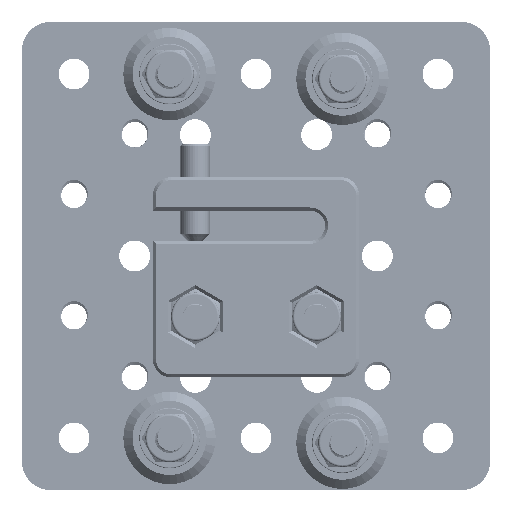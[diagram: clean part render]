
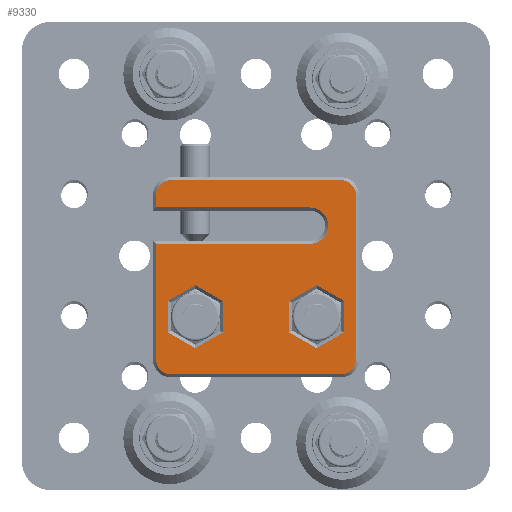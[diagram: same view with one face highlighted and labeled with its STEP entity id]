
A CAD part, front view. The second image highlights one B-rep face of the part: STEP entity #9330.
In plain terms, the highlighted planar face has unit normal (0, -1, 0) as drawn and (0, 0, 1) by its records, which use the part's own axes.
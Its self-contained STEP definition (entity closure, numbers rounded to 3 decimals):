
#1258=FACE_BOUND('',#2085,.T.);
#1259=FACE_BOUND('',#2086,.T.);
#1385=PLANE('',#10029);
#1534=FACE_OUTER_BOUND('',#2084,.T.);
#2084=EDGE_LOOP('',(#6534,#6535,#6536,#6537,#6538,#6539,#6540,#6541,#6542,
#6543,#6544,#6545));
#2085=EDGE_LOOP('',(#6546,#6547,#6548,#6549,#6550,#6551));
#2086=EDGE_LOOP('',(#6552,#6553,#6554,#6555,#6556,#6557));
#2740=LINE('',#13244,#3311);
#2744=LINE('',#13252,#3315);
#2747=LINE('',#13258,#3318);
#2750=LINE('',#13264,#3321);
#2754=LINE('',#13272,#3325);
#2757=LINE('',#13276,#3328);
#2765=LINE('',#13294,#3336);
#2766=LINE('',#13298,#3337);
#2767=LINE('',#13302,#3338);
#2768=LINE('',#13306,#3339);
#2769=LINE('',#13310,#3340);
#2770=LINE('',#13312,#3341);
#2771=LINE('',#13315,#3342);
#2772=LINE('',#13318,#3343);
#2773=LINE('',#13320,#3344);
#2774=LINE('',#13322,#3345);
#2775=LINE('',#13324,#3346);
#2776=LINE('',#13326,#3347);
#2777=LINE('',#13327,#3348);
#3311=VECTOR('',#10945,10.);
#3315=VECTOR('',#10951,10.);
#3318=VECTOR('',#10956,10.);
#3321=VECTOR('',#10961,10.);
#3325=VECTOR('',#10967,10.);
#3328=VECTOR('',#10972,10.);
#3336=VECTOR('',#10988,10.);
#3337=VECTOR('',#10991,10.);
#3338=VECTOR('',#10994,10.);
#3339=VECTOR('',#10997,10.);
#3340=VECTOR('',#11000,10.);
#3341=VECTOR('',#11001,10.);
#3342=VECTOR('',#11004,10.);
#3343=VECTOR('',#11005,10.);
#3344=VECTOR('',#11006,10.);
#3345=VECTOR('',#11007,10.);
#3346=VECTOR('',#11008,10.);
#3347=VECTOR('',#11009,10.);
#3348=VECTOR('',#11010,10.);
#3858=CIRCLE('',#10030,2.5);
#3859=CIRCLE('',#10031,2.5);
#3860=CIRCLE('',#10032,2.5);
#3861=CIRCLE('',#10033,2.5);
#3862=CIRCLE('',#10034,3.);
#4119=VERTEX_POINT('',#13242);
#4120=VERTEX_POINT('',#13243);
#4123=VERTEX_POINT('',#13251);
#4125=VERTEX_POINT('',#13257);
#4127=VERTEX_POINT('',#13263);
#4130=VERTEX_POINT('',#13271);
#4135=VERTEX_POINT('',#13292);
#4136=VERTEX_POINT('',#13293);
#4137=VERTEX_POINT('',#13295);
#4138=VERTEX_POINT('',#13297);
#4139=VERTEX_POINT('',#13299);
#4140=VERTEX_POINT('',#13301);
#4141=VERTEX_POINT('',#13303);
#4142=VERTEX_POINT('',#13305);
#4143=VERTEX_POINT('',#13307);
#4144=VERTEX_POINT('',#13309);
#4145=VERTEX_POINT('',#13311);
#4146=VERTEX_POINT('',#13313);
#4147=VERTEX_POINT('',#13316);
#4148=VERTEX_POINT('',#13317);
#4149=VERTEX_POINT('',#13319);
#4150=VERTEX_POINT('',#13321);
#4151=VERTEX_POINT('',#13323);
#4152=VERTEX_POINT('',#13325);
#5054=EDGE_CURVE('',#4119,#4120,#2740,.T.);
#5058=EDGE_CURVE('',#4120,#4123,#2744,.T.);
#5061=EDGE_CURVE('',#4123,#4125,#2747,.T.);
#5064=EDGE_CURVE('',#4125,#4127,#2750,.T.);
#5068=EDGE_CURVE('',#4127,#4130,#2754,.T.);
#5071=EDGE_CURVE('',#4130,#4119,#2757,.T.);
#5079=EDGE_CURVE('',#4135,#4136,#2765,.T.);
#5080=EDGE_CURVE('',#4137,#4135,#3858,.T.);
#5081=EDGE_CURVE('',#4138,#4137,#2766,.T.);
#5082=EDGE_CURVE('',#4139,#4138,#3859,.T.);
#5083=EDGE_CURVE('',#4140,#4139,#2767,.T.);
#5084=EDGE_CURVE('',#4141,#4140,#3860,.T.);
#5085=EDGE_CURVE('',#4142,#4141,#2768,.T.);
#5086=EDGE_CURVE('',#4143,#4142,#3861,.T.);
#5087=EDGE_CURVE('',#4144,#4143,#2769,.T.);
#5088=EDGE_CURVE('',#4145,#4144,#2770,.T.);
#5089=EDGE_CURVE('',#4146,#4145,#3862,.T.);
#5090=EDGE_CURVE('',#4136,#4146,#2771,.T.);
#5091=EDGE_CURVE('',#4147,#4148,#2772,.T.);
#5092=EDGE_CURVE('',#4149,#4147,#2773,.T.);
#5093=EDGE_CURVE('',#4150,#4149,#2774,.T.);
#5094=EDGE_CURVE('',#4151,#4150,#2775,.T.);
#5095=EDGE_CURVE('',#4152,#4151,#2776,.T.);
#5096=EDGE_CURVE('',#4148,#4152,#2777,.T.);
#6534=ORIENTED_EDGE('',*,*,#5079,.F.);
#6535=ORIENTED_EDGE('',*,*,#5080,.F.);
#6536=ORIENTED_EDGE('',*,*,#5081,.F.);
#6537=ORIENTED_EDGE('',*,*,#5082,.F.);
#6538=ORIENTED_EDGE('',*,*,#5083,.F.);
#6539=ORIENTED_EDGE('',*,*,#5084,.F.);
#6540=ORIENTED_EDGE('',*,*,#5085,.F.);
#6541=ORIENTED_EDGE('',*,*,#5086,.F.);
#6542=ORIENTED_EDGE('',*,*,#5087,.F.);
#6543=ORIENTED_EDGE('',*,*,#5088,.F.);
#6544=ORIENTED_EDGE('',*,*,#5089,.F.);
#6545=ORIENTED_EDGE('',*,*,#5090,.F.);
#6546=ORIENTED_EDGE('',*,*,#5091,.F.);
#6547=ORIENTED_EDGE('',*,*,#5092,.F.);
#6548=ORIENTED_EDGE('',*,*,#5093,.F.);
#6549=ORIENTED_EDGE('',*,*,#5094,.F.);
#6550=ORIENTED_EDGE('',*,*,#5095,.F.);
#6551=ORIENTED_EDGE('',*,*,#5096,.F.);
#6552=ORIENTED_EDGE('',*,*,#5054,.F.);
#6553=ORIENTED_EDGE('',*,*,#5071,.F.);
#6554=ORIENTED_EDGE('',*,*,#5068,.F.);
#6555=ORIENTED_EDGE('',*,*,#5064,.F.);
#6556=ORIENTED_EDGE('',*,*,#5061,.F.);
#6557=ORIENTED_EDGE('',*,*,#5058,.F.);
#9330=ADVANCED_FACE('',(#1534,#1258,#1259),#1385,.T.);
#10029=AXIS2_PLACEMENT_3D('',#13291,#10986,#10987);
#10030=AXIS2_PLACEMENT_3D('',#13296,#10989,#10990);
#10031=AXIS2_PLACEMENT_3D('',#13300,#10992,#10993);
#10032=AXIS2_PLACEMENT_3D('',#13304,#10995,#10996);
#10033=AXIS2_PLACEMENT_3D('',#13308,#10998,#10999);
#10034=AXIS2_PLACEMENT_3D('',#13314,#11002,#11003);
#10945=DIRECTION('',(0.866,-0.5,0.));
#10951=DIRECTION('',(0.866,0.5,0.));
#10956=DIRECTION('',(0.,1.,0.));
#10961=DIRECTION('',(-0.866,0.5,0.));
#10967=DIRECTION('',(-0.866,-0.5,0.));
#10972=DIRECTION('',(0.,-1.,0.));
#10986=DIRECTION('center_axis',(0.,0.,1.));
#10987=DIRECTION('ref_axis',(1.,0.,0.));
#10988=DIRECTION('',(0.,1.,0.));
#10989=DIRECTION('center_axis',(0.,0.,-1.));
#10990=DIRECTION('ref_axis',(-1.,0.,0.));
#10991=DIRECTION('',(-1.,0.,0.));
#10992=DIRECTION('center_axis',(0.,0.,-1.));
#10993=DIRECTION('ref_axis',(0.,-1.,0.));
#10994=DIRECTION('',(0.,-1.,0.));
#10995=DIRECTION('center_axis',(0.,0.,-1.));
#10996=DIRECTION('ref_axis',(1.,0.,0.));
#10997=DIRECTION('',(1.,0.,0.));
#10998=DIRECTION('center_axis',(0.,0.,-1.));
#10999=DIRECTION('ref_axis',(0.,1.,0.));
#11000=DIRECTION('',(0.,1.,0.));
#11001=DIRECTION('',(-1.,0.,0.));
#11002=DIRECTION('center_axis',(0.,0.,1.));
#11003=DIRECTION('ref_axis',(0.,-1.,0.));
#11004=DIRECTION('',(1.,0.,0.));
#11005=DIRECTION('',(-0.866,0.5,0.));
#11006=DIRECTION('',(0.,1.,0.));
#11007=DIRECTION('',(0.866,0.5,0.));
#11008=DIRECTION('',(0.866,-0.5,0.));
#11009=DIRECTION('',(0.,-1.,0.));
#11010=DIRECTION('',(-0.866,-0.5,0.));
#13242=CARTESIAN_POINT('',(2.5,7.402,16.));
#13243=CARTESIAN_POINT('',(7.,4.804,16.));
#13244=CARTESIAN_POINT('',(8.093,4.173,16.));
#13251=CARTESIAN_POINT('',(11.5,7.402,16.));
#13252=CARTESIAN_POINT('',(15.407,9.658,16.));
#13257=CARTESIAN_POINT('',(11.5,12.598,16.));
#13258=CARTESIAN_POINT('',(11.5,14.405,16.));
#13263=CARTESIAN_POINT('',(7.,15.196,16.));
#13264=CARTESIAN_POINT('',(10.593,13.122,16.));
#13271=CARTESIAN_POINT('',(2.5,12.598,16.));
#13272=CARTESIAN_POINT('',(8.907,16.297,16.));
#13276=CARTESIAN_POINT('',(2.5,12.095,16.));
#13291=CARTESIAN_POINT('Origin',(17.,16.5,16.));
#13292=CARTESIAN_POINT('',(0.5,3.,16.));
#13293=CARTESIAN_POINT('',(0.5,22.,16.));
#13294=CARTESIAN_POINT('',(0.5,19.5,16.));
#13295=CARTESIAN_POINT('',(3.,0.5,16.));
#13296=CARTESIAN_POINT('Origin',(3.,3.,16.));
#13297=CARTESIAN_POINT('',(31.,0.5,16.));
#13298=CARTESIAN_POINT('',(10.,0.5,16.));
#13299=CARTESIAN_POINT('',(33.5,3.,16.));
#13300=CARTESIAN_POINT('Origin',(31.,3.,16.));
#13301=CARTESIAN_POINT('',(33.5,30.,16.));
#13302=CARTESIAN_POINT('',(33.5,9.75,16.));
#13303=CARTESIAN_POINT('',(31.,32.5,16.));
#13304=CARTESIAN_POINT('Origin',(31.,30.,16.));
#13305=CARTESIAN_POINT('',(3.,32.5,16.));
#13306=CARTESIAN_POINT('',(24.,32.5,16.));
#13307=CARTESIAN_POINT('',(0.5,30.,16.));
#13308=CARTESIAN_POINT('Origin',(3.,30.,16.));
#13309=CARTESIAN_POINT('',(0.5,28.,16.));
#13310=CARTESIAN_POINT('',(0.5,23.25,16.));
#13311=CARTESIAN_POINT('',(25.9,28.,16.));
#13312=CARTESIAN_POINT('',(8.5,28.,16.));
#13313=CARTESIAN_POINT('',(25.9,22.,16.));
#13314=CARTESIAN_POINT('Origin',(25.9,25.,16.));
#13315=CARTESIAN_POINT('',(21.45,22.,16.));
#13316=CARTESIAN_POINT('',(31.5,12.598,16.));
#13317=CARTESIAN_POINT('',(27.,15.196,16.));
#13318=CARTESIAN_POINT('',(23.093,17.452,16.));
#13319=CARTESIAN_POINT('',(31.5,7.402,16.));
#13320=CARTESIAN_POINT('',(31.5,14.405,16.));
#13321=CARTESIAN_POINT('',(27.,4.804,16.));
#13322=CARTESIAN_POINT('',(27.907,5.328,16.));
#13323=CARTESIAN_POINT('',(22.5,7.402,16.));
#13324=CARTESIAN_POINT('',(20.593,8.503,16.));
#13325=CARTESIAN_POINT('',(22.5,12.598,16.));
#13326=CARTESIAN_POINT('',(22.5,12.095,16.));
#13327=CARTESIAN_POINT('',(21.407,11.967,16.));
